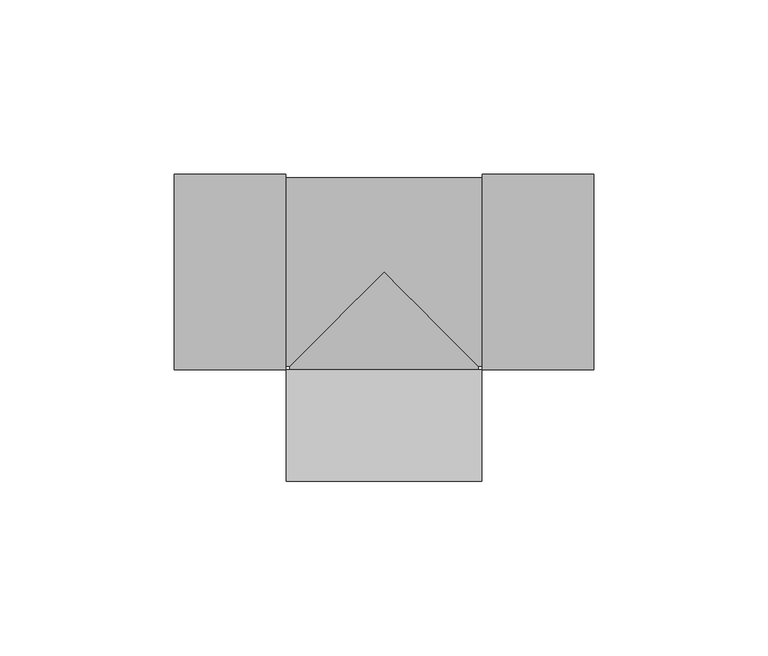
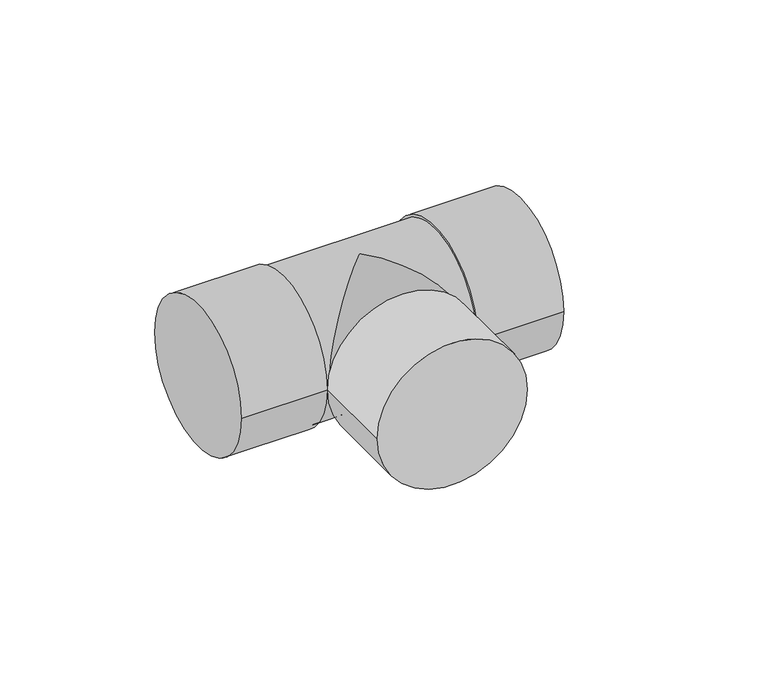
"""IFC4 building model written with IfcOpenShell, lengths in millimetres: pipe fitting geometry, Tê - Soldado - CU : Padrão."""

import ifcopenshell
import ifcopenshell.guid

model = None  # the IFC model being written
_history = None  # IfcOwnerHistory: only IFC2X3 demands one
_inside = {}  # id of a spatial element -> (the spatial element, [elements in it])
_under = {}  # id of a project, library or spatial element -> (it, [spatial elements below it])
_declared = {}  # id of a project -> (the project, [libraries it declares])
_typed = {}  # id of a type object -> (the type object, [elements of that type])
_made_of = {}  # id of a material, layer set ... -> (it, [elements and type objects made of it])


def new_model(schema):
    """Start an empty IFC model of exactly this schema.

    Asked for "IFC4X3", IfcOpenShell would pick the latest addendum, in which some entities
    have other attributes; the version numbers below select the first issue.
    IFC2X3 requires an IfcOwnerHistory on every rooted entity: one is made here for all.
    """
    global model, _history
    if schema == "IFC4X3":
        model = ifcopenshell.file(schema_version=(4, 3, 0, 0))
    else:
        model = ifcopenshell.file(schema=schema)
    _inside.clear()
    _under.clear()
    _declared.clear()
    _typed.clear()
    _made_of.clear()
    _history = None
    if model.schema == "IFC2X3":
        org = make("IfcOrganization", Name="unknown")
        user = make(
            "IfcPersonAndOrganization",
            ThePerson=make("IfcPerson", FamilyName="unknown"),
            TheOrganization=org,
        )
        app = make(
            "IfcApplication",
            ApplicationDeveloper=org,
            Version="unknown",
            ApplicationFullName="unknown",
            ApplicationIdentifier="unknown",
        )
        _history = make(
            "IfcOwnerHistory",
            OwningUser=user,
            OwningApplication=app,
            ChangeAction="ADDED",
            CreationDate=0,
        )
    return model


def make(cls, **values):
    """One entity of the class cls with the attributes given. An attribute that is None is left unset."""
    return model.create_entity(
        cls, **{name: value for name, value in values.items() if value is not None}
    )


def rooted(cls, **values):
    """An entity with a GlobalId (a new one), such as an element, a storey or a relation."""
    return make(cls, GlobalId=ifcopenshell.guid.new(), OwnerHistory=_history, **values)


def si_unit(unit_type, name, prefix=None):
    """IfcSIUnit, for example si_unit("LENGTHUNIT", "METRE", prefix="MILLI")."""
    return make("IfcSIUnit", UnitType=unit_type, Prefix=prefix, Name=name)


def assignment(units):
    """IfcUnitAssignment: the units of a project."""
    return None if units is None else make("IfcUnitAssignment", Units=units)


def point(xyz):
    """IfcCartesianPoint."""
    return None if xyz is None else make("IfcCartesianPoint", Coordinates=xyz)


def direction(xyz):
    """IfcDirection."""
    return None if xyz is None else make("IfcDirection", DirectionRatios=xyz)


def frame(location, z_axis=None, x_axis=None):
    """IfcAxis2Placement3D, a coordinate frame: its origin and axes. An axis left out is left unset."""
    return make(
        "IfcAxis2Placement3D",
        Location=point(location),
        Axis=direction(z_axis),
        RefDirection=direction(x_axis),
    )


def origin():
    """The frame at (0, 0, 0) with its axes left unset."""
    return frame((0.0, 0.0, 0.0))


def place(relative_to, where):
    """IfcLocalPlacement: puts the frame where relative to a parent placement (None: the world)."""
    return make(
        "IfcLocalPlacement", PlacementRelTo=relative_to, RelativePlacement=where
    )


def context(
    kind, dimensions, precision=None, world=None, true_north=None, identifier=None
):
    """IfcGeometricRepresentationContext, for example the 3D "Model" context."""
    return make(
        "IfcGeometricRepresentationContext",
        ContextIdentifier=identifier,
        ContextType=kind,
        CoordinateSpaceDimension=dimensions,
        Precision=precision,
        WorldCoordinateSystem=world,
        TrueNorth=true_north,
    )


def project(units=None, contexts=None):
    """IfcProject with its units and contexts."""
    return rooted(
        "IfcProject",
        Name="project",
        RepresentationContexts=contexts,
        UnitsInContext=assignment(units),
    )


def spatial(cls, under=None, at=None, **own):
    """A site, building, storey or space (cls), placed at a placement, below another one or the project."""
    s = rooted(cls, ObjectPlacement=at, **own)
    if under is not None:
        _under.setdefault(under.id(), (under, []))[1].append(s)
    return s


def circle_curve(where, radius):
    """IfcCircle in the frame where."""
    return make("IfcCircle", Position=where, Radius=radius)


def ellipse_curve(where, semi_axis1, semi_axis2):
    """IfcEllipse in the frame where."""
    return make(
        "IfcEllipse", Position=where, SemiAxis1=semi_axis1, SemiAxis2=semi_axis2
    )


def shape(context_of_items, identifier, shape_type, items):
    """IfcShapeRepresentation: the items that make up one representation, for example the "Body"."""
    return make(
        "IfcShapeRepresentation",
        ContextOfItems=context_of_items,
        RepresentationIdentifier=identifier,
        RepresentationType=shape_type,
        Items=items,
    )


def source(mapping_origin, context_of_items, identifier, shape_type, items):
    """IfcRepresentationMap: a shape defined once, which mapped items show again and again."""
    return make(
        "IfcRepresentationMap",
        MappingOrigin=mapping_origin,
        MappedRepresentation=shape(context_of_items, identifier, shape_type, items),
    )


def transform(
    local_origin,
    x_axis=None,
    y_axis=None,
    z_axis=None,
    scale=None,
    scale2=None,
    scale3=None,
    uniform=True,
):
    """IfcCartesianTransformationOperator3D, or its non-uniform kind. x_axis, y_axis, z_axis: its Axis1, 2, 3."""
    if uniform:
        return make(
            "IfcCartesianTransformationOperator3D",
            Axis1=direction(x_axis),
            Axis2=direction(y_axis),
            LocalOrigin=point(local_origin),
            Scale=scale,
            Axis3=direction(z_axis),
        )
    return make(
        "IfcCartesianTransformationOperator3DnonUniform",
        Axis1=direction(x_axis),
        Axis2=direction(y_axis),
        LocalOrigin=point(local_origin),
        Scale=scale,
        Axis3=direction(z_axis),
        Scale2=scale2,
        Scale3=scale3,
    )


def mapped(mapping_source, mapping_target):
    """IfcMappedItem: shows the shape of a source again, moved by a transform."""
    return make(
        "IfcMappedItem", MappingSource=mapping_source, MappingTarget=mapping_target
    )


def made_of(thing, what):
    """Note that an element or type object is made of a material, layer set ...; save() writes the relation."""
    if what is not None:
        _made_of.setdefault(what.id(), (what, []))[1].append(thing)
    return thing


def element(
    cls,
    number,
    at=None,
    inside=None,
    cuts=None,
    type_object=None,
    material=None,
    context=None,
    identifier="Body",
    shape_type=None,
    held_by="IfcProductDefinitionShape",
    body=None,
    shapes=None,
    **own,
):
    """One element of the class cls, such as IfcWall. Its Tag is "e" and its number.

    at: its placement. inside: the storey or other place that contains it. cuts: it is an
    opening in that element (IfcRelVoidsElement). A single representation is given by context,
    identifier, shape_type and body (its items); several are given by shapes. held_by: the class
    of the entity that holds the representations. save() writes the other relations.
    """
    e = rooted(cls, Tag="e%d" % number, ObjectPlacement=at, **own)
    if body is not None:
        shapes = [shape(context, identifier, shape_type, body)]
    if shapes is not None:
        e.Representation = make(held_by, Representations=shapes)
    if inside is not None:
        _inside.setdefault(inside.id(), (inside, []))[1].append(e)
    if cuts is not None:
        rooted(
            "IfcRelVoidsElement", RelatingBuildingElement=cuts, RelatedOpeningElement=e
        )
    if type_object is not None:
        _typed.setdefault(type_object.id(), (type_object, []))[1].append(e)
    return made_of(e, material)


def aggregate(whole, parts):
    """IfcRelAggregates: a whole, such as a stair, and the parts it consists of."""
    return rooted("IfcRelAggregates", RelatingObject=whole, RelatedObjects=parts)


def save(model, path):
    """Write the relations noted so far, then the file.

    IfcRelAggregates (storeys below a building ...), IfcRelContainedInSpatialStructure (elements
    in a storey), IfcRelDefinesByType, IfcRelAssociatesMaterial and IfcRelDeclares: one each for
    every whole, place, type object, material and project.
    """
    for whole, parts in _under.values():
        aggregate(whole, parts)
    for where, things in _inside.values():
        rooted(
            "IfcRelContainedInSpatialStructure",
            RelatedElements=things,
            RelatingStructure=where,
        )
    for kind, things in _typed.values():
        rooted("IfcRelDefinesByType", RelatedObjects=things, RelatingType=kind)
    for what, things in _made_of.values():
        rooted("IfcRelAssociatesMaterial", RelatedObjects=things, RelatingMaterial=what)
    for by, libraries in _declared.values():
        rooted("IfcRelDeclares", RelatingContext=by, RelatedDefinitions=libraries)
    model.write(path)


def plane_surface(at):
    """IfcPlane: the flat surface through the origin of the frame at, square to its z axis."""
    return make("IfcPlane", Position=at)


def cylinder_surface(at, radius):
    """IfcCylindricalSurface: all points at the distance radius from the z axis of the frame at."""
    return make("IfcCylindricalSurface", Position=at, Radius=radius)


def advanced_brep(points, edges, surfaces, faces):
    """IfcAdvancedBrep: a solid bounded by faces that lie on surfaces and meet in shared edges.

    An edge is (start, end): straight between two places in points (the first is 0);
    or (start, end, curve); or (start, end, curve, False) where it runs against its curve.
    A face is (place in surfaces, loops), or (place, loops, False) where it looks against
    its surface's normal. A loop lists edges by number (the first is 1), with a minus sign
    where the edge is run from its end to its start. The first loop is the outer one.
    """
    corners = [point(p) for p in points]
    vertices = [make("IfcVertexPoint", VertexGeometry=c) for c in corners]
    made = []
    for start, end, *more in edges:
        made.append(
            make(
                "IfcEdgeCurve",
                EdgeStart=vertices[start],
                EdgeEnd=vertices[end],
                EdgeGeometry=more[0] if more else make("IfcPolyline", Points=[corners[start], corners[end]]),
                SameSense=more[1] if len(more) > 1 else True,
            )
        )
    hull = []
    for where, loops, *sense in faces:
        bounds = []
        for j, loop in enumerate(loops):
            ring = [make("IfcOrientedEdge", EdgeElement=made[abs(k) - 1], Orientation=k > 0) for k in loop]
            bounds.append(
                make(
                    "IfcFaceOuterBound" if j == 0 else "IfcFaceBound",
                    Bound=make("IfcEdgeLoop", EdgeList=ring),
                    Orientation=True,
                )
            )
        hull.append(make("IfcAdvancedFace", Bounds=bounds, FaceSurface=surfaces[where], SameSense=sense[0] if sense else True))
    return make("IfcAdvancedBrep", Outer=make("IfcClosedShell", CfsFaces=hull))


def pipe_fitting_06198d9f(model_context):
    return source(origin(), model_context, "Body", "AdvancedBrep", [
        advanced_brep(
        [(28.01, -60.01, 0.0), (-28.01, -60.01, 0.0), (28.01, -28.01, 0.0), (-28.01, -28.01, 0.0), (27.0, -28.01, 0.0), (-27.0, -28.01, 0.0), (-60.15, -28.01, 0.0), (-60.15, 28.01, 0.0), (-28.15, -28.01, 0.0), (-28.15, 28.01, 0.0), (-28.15, -27.0, 0.0), (-28.15, 27.0, 0.0), (28.15, 27.0, 0.0), (-27.0, -27.0, 0.0), (0.0, 0.0, 27.0), (27.0, -27.0, 0.0), (28.15, -27.0, 0.0), (0.0, 0.0, -27.0), (28.15, -28.01, 0.0), (28.15, 28.01, 0.0), (60.15, -28.01, 0.0), (60.15, 28.01, 0.0)],
        [
            (0, 1, circle_curve(frame((0.0, -60.01, 0.0), z_axis=(0.0, -1.0, 0.0), x_axis=(-1.0, 0.0, 0.0)), 28.01)),
            (1, 0, circle_curve(frame((0.0, -60.01, 0.0), z_axis=(0.0, -1.0, 0.0), x_axis=(-1.0, 0.0, 0.0)), 28.01)),
            (2, 3, circle_curve(frame((0.0, -28.01, 0.0), z_axis=(0.0, 1.0, 0.0), x_axis=(-1.0, 0.0, 0.0)), 28.01)),
            (3, 2, circle_curve(frame((0.0, -28.01, 0.0), z_axis=(0.0, 1.0, 0.0), x_axis=(-1.0, 0.0, 0.0)), 28.01)),
            (4, 5, circle_curve(frame((0.0, -28.01, 0.0), z_axis=(0.0, -1.0, 0.0), x_axis=(1.0, 0.0, 0.0)), 27.0)),
            (5, 4, circle_curve(frame((0.0, -28.01, 0.0), z_axis=(0.0, -1.0, 0.0), x_axis=(1.0, 0.0, 0.0)), 27.0)),
            (0, 2),
            (3, 1),
            (6, 7, circle_curve(frame((-60.15, 0.0, 0.0), z_axis=(-1.0, 0.0, 0.0), x_axis=(0.0, 1.0, 0.0)), 28.01)),
            (7, 6, circle_curve(frame((-60.15, 0.0, 0.0), z_axis=(-1.0, 0.0, 0.0), x_axis=(0.0, 1.0, 0.0)), 28.01)),
            (8, 9, circle_curve(frame((-28.15, 0.0, 0.0), z_axis=(1.0, 0.0, 0.0), x_axis=(0.0, 1.0, 0.0)), 28.01)),
            (9, 8, circle_curve(frame((-28.15, 0.0, 0.0), z_axis=(1.0, 0.0, 0.0), x_axis=(0.0, 1.0, 0.0)), 28.01)),
            (10, 11, circle_curve(frame((-28.15, 0.0, 0.0), z_axis=(-1.0, 0.0, 0.0), x_axis=(0.0, 1.0, 0.0)), 27.0)),
            (11, 10, circle_curve(frame((-28.15, 0.0, 0.0), z_axis=(-1.0, 0.0, 0.0), x_axis=(0.0, 1.0, 0.0)), 27.0)),
            (6, 8),
            (9, 7),
            (12, 11),
            (10, 13),
            (13, 14, ellipse_curve(frame((0.0, 0.0, 0.0), z_axis=(-0.7071067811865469, 0.7071067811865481, 0.0), x_axis=(-0.707106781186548, -0.7071067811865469, 0.0)), 38.1837662, 27.0)),
            (14, 15, ellipse_curve(frame((0.0, 0.0, 0.0), z_axis=(0.7071067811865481, 0.7071067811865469, 0.0), x_axis=(-0.707106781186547, 0.7071067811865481, 0.0)), 38.1837662, 27.0)),
            (15, 16),
            (16, 12, circle_curve(frame((28.15, 0.0, 0.0), z_axis=(-1.0, 0.0, 0.0), x_axis=(0.0, 1.0, 0.0)), 27.0)),
            (12, 16, circle_curve(frame((28.15, 0.0, 0.0), z_axis=(-1.0, 0.0, 0.0), x_axis=(0.0, 1.0, 0.0)), 27.0)),
            (15, 17, ellipse_curve(frame((0.0, 0.0, 0.0), z_axis=(0.7071067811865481, 0.7071067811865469, 0.0), x_axis=(-0.707106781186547, 0.7071067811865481, 0.0)), 38.1837662, 27.0)),
            (17, 13, ellipse_curve(frame((0.0, 0.0, 0.0), z_axis=(-0.7071067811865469, 0.7071067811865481, 0.0), x_axis=(-0.707106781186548, -0.7071067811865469, 0.0)), 38.1837662, 27.0)),
            (18, 19, circle_curve(frame((28.15, 0.0, 0.0), z_axis=(-1.0, 0.0, 0.0), x_axis=(0.0, 1.0, 0.0)), 28.01)),
            (19, 18, circle_curve(frame((28.15, 0.0, 0.0), z_axis=(-1.0, 0.0, 0.0), x_axis=(0.0, 1.0, 0.0)), 28.01)),
            (20, 21, circle_curve(frame((60.15, 0.0, 0.0), z_axis=(1.0, 0.0, 0.0), x_axis=(0.0, 1.0, 0.0)), 28.01)),
            (21, 20, circle_curve(frame((60.15, 0.0, 0.0), z_axis=(1.0, 0.0, 0.0), x_axis=(0.0, 1.0, 0.0)), 28.01)),
            (18, 20),
            (21, 19),
            (4, 15),
            (13, 5),
        ],
        [
            plane_surface(frame((0.0, -60.01, 0.0), z_axis=(0.0, -1.0, 0.0), x_axis=(0.0, 0.0, 1.0))),
            plane_surface(frame((0.0, -28.01, 0.0), z_axis=(0.0, 1.0, 0.0), x_axis=(0.0, 0.0, 1.0))),
            cylinder_surface(frame((0.0, -60.01, 0.0), z_axis=(0.0, -1.0, 0.0), x_axis=(-1.0, 0.0, 0.0)), 28.01),
            plane_surface(frame((-60.15, 0.0, 0.0), z_axis=(-1.0, 0.0, 0.0), x_axis=(0.0, 0.0, 1.0))),
            plane_surface(frame((-28.15, 0.0, 0.0), z_axis=(1.0, 0.0, 0.0), x_axis=(0.0, 0.0, 1.0))),
            cylinder_surface(frame((-60.15, 0.0, 0.0), z_axis=(-1.0, 0.0, 0.0), x_axis=(0.0, 1.0, 0.0)), 28.01),
            cylinder_surface(frame((-28.15, 0.0, 0.0), z_axis=(-1.0, 0.0, 0.0), x_axis=(0.0, 1.0, 0.0)), 27.0),
            plane_surface(frame((28.15, 0.0, 0.0), z_axis=(-1.0, 0.0, 0.0), x_axis=(0.0, 0.0, 1.0))),
            plane_surface(frame((60.15, 0.0, 0.0), z_axis=(1.0, 0.0, 0.0), x_axis=(0.0, 0.0, 1.0))),
            cylinder_surface(frame((28.15, 0.0, 0.0), z_axis=(-1.0, 0.0, 0.0), x_axis=(0.0, 1.0, 0.0)), 28.01),
            cylinder_surface(frame((0.0, 0.0, 0.0), z_axis=(0.0, 1.0, 0.0), x_axis=(1.0, 0.0, 0.0)), 27.0),
        ],
        [
            (0, [[1, 2]]),
            (1, [[3, 4], [5, 6]]),
            (2, [[-1, 7, -4, 8]]),
            (2, [[-2, -8, -3, -7]]),
            (3, [[9, 10]]),
            (4, [[11, 12], [13, 14]]),
            (5, [[-9, 15, -12, 16]]),
            (5, [[-10, -16, -11, -15]]),
            (6, [[17, -13, 18, 19, 20, 21, 22]]),
            (6, [[-17, 23, -21, 24, 25, -18, -14]]),
            (7, [[26, 27], [-22, -23]]),
            (8, [[28, 29]]),
            (9, [[-26, 30, -29, 31]]),
            (9, [[-27, -31, -28, -30]]),
            (10, [[32, -20, -19, 33, -5]]),
            (10, [[-32, -6, -33, -25, -24]]),
        ],
    ),
    ])


if __name__ == "__main__":
    model = new_model("IFC4")
    model_context = context("Model", 3, world=origin())
    ifc_project = project(units=[si_unit("LENGTHUNIT", "METRE", prefix="MILLI")], contexts=[model_context])
    site = spatial("IfcSite", under=ifc_project)
    building = spatial("IfcBuilding", under=site)
    placement = place(None, origin())
    pipe_fitting_shape = pipe_fitting_06198d9f(model_context)
    element("IfcPipeFitting", 1, ObjectType="Tê - Soldado - CU : Padrão", at=placement, inside=building, context=model_context, shape_type="MappedRepresentation", body=[
        mapped(pipe_fitting_shape, transform((0.0, 0.0, 0.0), x_axis=(1.0, 0.0, 0.0), y_axis=(0.0, 1.0, 0.0), z_axis=(0.0, 0.0, 1.0))),
    ])
    save(model, "model.ifc")
